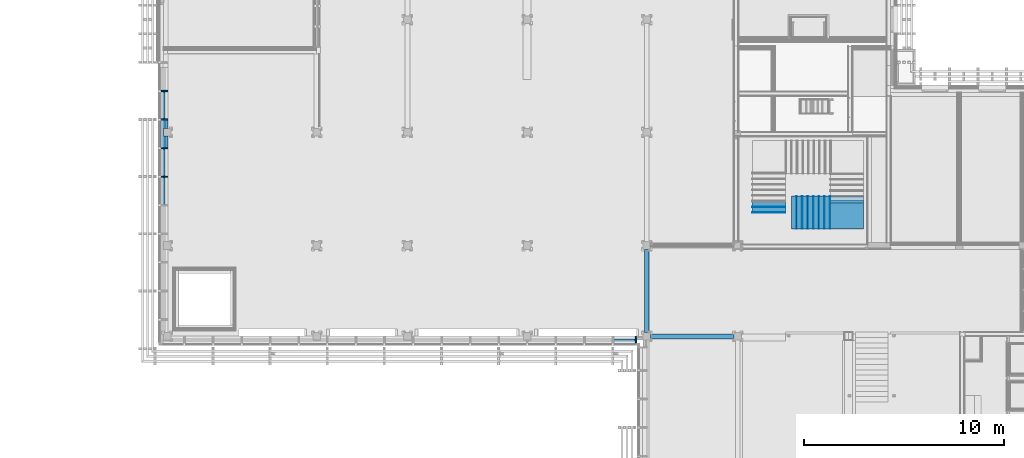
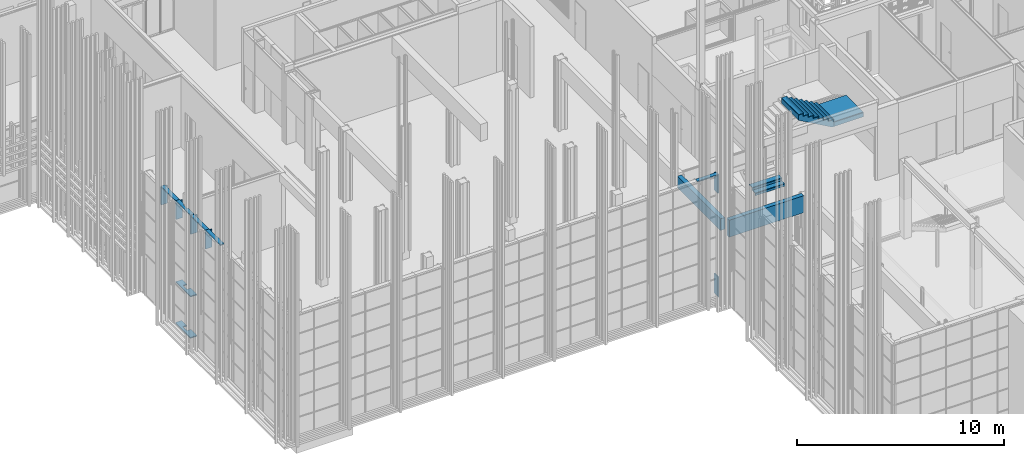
# One storey, part 74 of 260: 34 members, 2 beams, 2 elements without a shape of their own.
"""IFC2X3 building model written with IfcOpenShell, lengths in millimetres."""

from ifc_helpers import new_model, entity, si_unit, converted_unit, derived_unit, money_unit, direction, frame, origin_with_axes, place, context, subcontext, project, spatial, faceted_brep, material, type_object, element, aggregate, save


model = new_model("IFC2X3")

# Units and contexts
model_context = context("Model", 3, precision=0.01, world=origin_with_axes(), true_north=direction((0.0, 1.0)))
body_context = subcontext(model_context, "Body", "Model", "MODEL_VIEW")
ifc_project = project(units=[si_unit("LENGTHUNIT", "METRE", prefix="MILLI"), si_unit("AREAUNIT", "SQUARE_METRE"), si_unit("VOLUMEUNIT", "CUBIC_METRE"), converted_unit("PLANEANGLEUNIT", "DEGREE", entity("IfcPlaneAngleMeasure", 0.0174532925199), si_unit("PLANEANGLEUNIT", "RADIAN"), dimensions=[0, 0, 0, 0, 0, 0, 0]), money_unit("EUR"), converted_unit("TIMEUNIT", "Year", entity("IfcTimeMeasure", 31556926.0), si_unit("TIMEUNIT", "SECOND"), dimensions=[0, 0, 1, 0, 0, 0, 0]), si_unit("MASSUNIT", "GRAM", prefix="KILO"), si_unit("THERMODYNAMICTEMPERATUREUNIT", "DEGREE_CELSIUS"), si_unit("LUMINOUSINTENSITYUNIT", "LUMEN"), si_unit("ENERGYUNIT", "JOULE", prefix="MEGA"), derived_unit("THERMALCONDUCTANCEUNIT", [(si_unit("POWERUNIT", "WATT"), 1), (si_unit("LENGTHUNIT", "METRE"), -1), (si_unit("THERMODYNAMICTEMPERATUREUNIT", "KELVIN"), -1)]), derived_unit("SPECIFICHEATCAPACITYUNIT", [(si_unit("ENERGYUNIT", "JOULE"), 1), (si_unit("MASSUNIT", "GRAM", prefix="KILO"), -1), (si_unit("THERMODYNAMICTEMPERATUREUNIT", "KELVIN"), -1)]), derived_unit("MASSDENSITYUNIT", [(si_unit("MASSUNIT", "GRAM", prefix="KILO"), 1), (si_unit("VOLUMEUNIT", "CUBIC_METRE"), -1)])], contexts=[model_context])

# Site, building, storey
site_placement = place(None, origin_with_axes())
site = spatial("IfcSite", under=ifc_project, at=site_placement, Name="Kolde pst 67a", CompositionType="ELEMENT")
building_placement = place(site_placement, origin_with_axes())
building = spatial("IfcBuilding", under=site, at=building_placement, Name="Riigigümnaasium", CompositionType="ELEMENT")
storey_placement = place(building_placement, origin_with_axes())
storey = spatial("IfcBuildingStorey", under=building, at=storey_placement, Name="1. korrus", CompositionType="ELEMENT", Elevation=0.0)

# Stair, members
stair_placement = place(storey_placement, frame((55074.9583238, 31162.4614213, 0.0), z_axis=(0.0, 0.0, 1.0), x_axis=(1.0, 0.0, 0.0)))
stair = element("IfcStair", 1, at=stair_placement, inside=storey, Name="TREPP", ShapeType="NOTDEFINED")
ifc_material_1 = material(Name="_KANDETARIND - raudbetoon C25/30 vastavalt EK osale")
member_type_1 = type_object("IfcMemberType", Name="IfcMember", PredefinedType="USERDEFINED")
member_1_placement = place(stair_placement, origin_with_axes())
member_1 = element("IfcMember", 2, at=member_1_placement, type_object=member_type_1, material=ifc_material_1, Name="TM KONSTRUKTSIOON - 014", ObjectType="Stair Structure", context=body_context, shape_type="Brep", body=[
    faceted_brep([(2350.02571472, -95.0000018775, 3207.65517241), (2350.02571472, -95.0000018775, 3337.65517241), (4000.02571284, -95.0000018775, 3337.65517241), (4000.02571284, -95.0000018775, 3207.65517241), (2350.02571472, -255.000008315, 3337.65517241), (2350.02571472, -1555.0, 3207.65517241), (2350.02571472, -1555.0, 3457.65517241), (2350.02571472, -255.000008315, 3457.65517241), (4000.02571284, -255.000008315, 3337.65517241), (4000.02571284, -255.000008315, 3457.65517241), (4000.02571284, -1555.0, 3457.65517241), (4000.02571284, -1555.0, 3207.65517241)], [[[0, 1, 2, 3]], [[4, 1, 0, 5, 6, 7]], [[1, 4, 8, 2]], [[2, 8, 9, 10, 11, 3]], [[5, 0, 3, 11]], [[6, 5, 11, 10]], [[7, 6, 10, 9]], [[4, 7, 9, 8]]]),
])
member_2_placement = place(stair_placement, origin_with_axes())
member_2 = element("IfcMember", 3, at=member_2_placement, type_object=member_type_1, material=ifc_material_1, Name="TT KONSTRUKTSIOON - 018", ObjectType="Stair Structure", context=body_context, shape_type="Brep", body=[
    faceted_brep([(2350.02571284, -1555.0, 3207.65517241), (2350.02571284, 95.0, 3207.65517241), (2350.02571284, 95.0, 3457.65517241), (2350.02571284, -1555.0, 3457.65517241), (2252.13234043, 95.0, 3207.65517241), (2252.13234043, -1555.0, 3207.65517241), (576.692379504, 95.0, 4156.79603698), (483.359046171, 95.0, 4209.6696002), (390.025712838, 95.0, 4262.54316341), (390.025712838, 95.0, 4568.0), (638.025712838, 95.0, 4568.0), (638.025712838, 95.0, 4409.37931034), (918.025712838, 95.0, 4409.37931034), (918.025712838, 95.0, 4250.75862069), (1198.02571284, 95.0, 4250.75862069), (1198.02571284, 95.0, 4092.13793103), (1478.02571284, 95.0, 4092.13793103), (1478.02571284, 95.0, 3933.51724138), (1758.02571284, 95.0, 3933.51724138), (1758.02571284, 95.0, 3774.89655172), (2038.02571284, 95.0, 3774.89655172), (2038.02571284, 95.0, 3616.27586207), (2318.02571284, 95.0, 3616.27586207), (2318.02571284, 95.0, 3457.65517241), (2163.35904617, 95.0, 3257.94546227), (2070.02571284, 95.0, 3310.81902548), (1976.6923795, 95.0, 3363.6925887), (1883.35904617, 95.0, 3416.56615192), (1790.02571284, 95.0, 3469.43971514), (1696.6923795, 95.0, 3522.31327836), (1603.35904617, 95.0, 3575.18684158), (1510.02571284, 95.0, 3628.06040479), (1416.6923795, 95.0, 3680.93396801), (1323.35904617, 95.0, 3733.80753123), (1230.02571284, 95.0, 3786.68109445), (1136.6923795, 95.0, 3839.55465767), (1043.35904617, 95.0, 3892.42822089), (950.025712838, 95.0, 3945.3017841), (856.692379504, 95.0, 3998.17534732), (763.359046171, 95.0, 4051.04891054), (670.025712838, 95.0, 4103.92247376), (2318.02571284, -1555.0, 3457.65517241), (2318.02571284, -1555.0, 3616.27586207), (2038.02571284, -1555.0, 3616.27586207), (2038.02571284, -1555.0, 3774.89655172), (1758.02571284, -1555.0, 3774.89655172), (1758.02571284, -1555.0, 3933.51724138), (1478.02571284, -1555.0, 3933.51724138), (1478.02571284, -1555.0, 4092.13793103), (1198.02571284, -1555.0, 4092.13793103), (1198.02571284, -1555.0, 4250.75862069), (918.025712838, -1555.0, 4250.75862069), (918.025712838, -1555.0, 4409.37931034), (638.025712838, -1555.0, 4409.37931034), (638.025712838, -1555.0, 4568.0), (390.025712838, -1555.0, 4568.0), (390.025712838, -1555.0, 4262.54316341), (483.359046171, -1555.0, 4209.6696002), (576.692379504, -1555.0, 4156.79603698), (670.025712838, -1555.0, 4103.92247376), (763.359046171, -1555.0, 4051.04891054), (856.692379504, -1555.0, 3998.17534732), (950.025712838, -1555.0, 3945.3017841), (1043.35904617, -1555.0, 3892.42822089), (1136.6923795, -1555.0, 3839.55465767), (1230.02571284, -1555.0, 3786.68109445), (1323.35904617, -1555.0, 3733.80753123), (1416.6923795, -1555.0, 3680.93396801), (1510.02571284, -1555.0, 3628.06040479), (1603.35904617, -1555.0, 3575.18684158), (1696.6923795, -1555.0, 3522.31327836), (1790.02571284, -1555.0, 3469.43971514), (1883.35904617, -1555.0, 3416.56615192), (1976.6923795, -1555.0, 3363.6925887), (2070.02571284, -1555.0, 3310.81902548), (2163.35904617, -1555.0, 3257.94546227)], [[[0, 1, 2, 3]], [[4, 1, 0, 5]], [[6, 7, 8, 9, 10, 11, 12, 13, 14, 15, 16, 17, 18, 19, 20, 21, 22, 23, 2, 1, 4, 24, 25, 26, 27, 28, 29, 30, 31, 32, 33, 34, 35, 36, 37, 38, 39, 40]], [[23, 41, 3, 2]], [[5, 0, 3, 41, 42, 43, 44, 45, 46, 47, 48, 49, 50, 51, 52, 53, 54, 55, 56, 57, 58, 59, 60, 61, 62, 63, 64, 65, 66, 67, 68, 69, 70, 71, 72, 73, 74, 75]], [[75, 24, 4, 5]], [[57, 7, 6, 58]], [[56, 8, 7, 57]], [[9, 8, 56, 55]], [[9, 55, 54, 10]], [[54, 53, 11, 10]], [[53, 52, 12, 11]], [[52, 51, 13, 12]], [[51, 50, 14, 13]], [[50, 49, 15, 14]], [[49, 48, 16, 15]], [[48, 47, 17, 16]], [[47, 46, 18, 17]], [[46, 45, 19, 18]], [[45, 44, 20, 19]], [[44, 43, 21, 20]], [[43, 42, 22, 21]], [[42, 41, 23, 22]], [[74, 25, 24, 75]], [[73, 26, 25, 74]], [[72, 27, 26, 73]], [[71, 28, 27, 72]], [[70, 29, 28, 71]], [[69, 30, 29, 70]], [[68, 31, 30, 69]], [[67, 32, 31, 68]], [[66, 33, 32, 67]], [[65, 34, 33, 66]], [[64, 35, 34, 65]], [[63, 36, 35, 64]], [[62, 37, 36, 63]], [[61, 38, 37, 62]], [[60, 39, 38, 61]], [[59, 40, 39, 60]], [[58, 6, 40, 59]]]),
])
ifc_material_2 = material(Name="_VIIMISTLUSKIHT - viimistlus vastavalt SA osale")
member_type_2 = type_object("IfcMemberType", Name="IfcMember", PredefinedType="USERDEFINED")
member_3_placement = place(stair_placement, frame((-735.15763142, -742.230620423, 126.620689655), z_axis=(0.0, 0.0, 1.0), x_axis=(1.0, 0.0, 0.0)))
member_3 = element("IfcMember", 4, at=member_3_placement, type_object=member_type_2, material=ifc_material_2, Name="TV TÕUS - 110", ObjectType="Stair Riser", context=body_context, shape_type="Brep", body=[
    faceted_brep([(-822.964830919, 0.0, 0.0), (825.0, 0.0, 0.0), (825.0, 32.0, 0.0), (-822.964830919, 32.0, 0.0), (-822.964830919, 0.0, -126.620689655), (825.0, 0.0, -126.620689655), (825.0, 32.0, -126.620689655), (-822.964830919, 32.0, -126.620689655)], [[[0, 1, 2, 3]], [[4, 5, 1, 0]], [[2, 1, 5, 6]], [[3, 2, 6, 7]], [[4, 0, 3, 7]], [[7, 6, 5, 4]]]),
])
member_4_placement = place(stair_placement, frame((-735.15763142, -462.230620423, 285.24137931), z_axis=(0.0, 0.0, 1.0), x_axis=(1.0, 0.0, 0.0)))
member_4 = element("IfcMember", 5, at=member_4_placement, type_object=member_type_2, material=ifc_material_2, Name="TV TÕUS - 111", ObjectType="Stair Riser", context=body_context, shape_type="Brep", body=[
    faceted_brep([(825.0, 0.0, 0.0), (825.0, 32.0, 0.0), (-822.964830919, 32.0, 0.0), (-822.964830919, 0.0, 0.0), (825.0, 0.0, -126.620689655), (825.0, 32.0, -126.620689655), (-822.964830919, 32.0, -126.620689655), (-822.964830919, 0.0, -126.620689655)], [[[0, 1, 2, 3]], [[0, 4, 5, 1]], [[1, 5, 6, 2]], [[3, 2, 6, 7]], [[4, 0, 3, 7]], [[5, 4, 7, 6]]]),
])
member_5_placement = place(stair_placement, frame((2350.02571284, -730.0, 3616.27586207), z_axis=(0.0, 0.0, 1.0), x_axis=(0.0, 1.0, 0.0)))
member_5 = element("IfcMember", 6, at=member_5_placement, type_object=member_type_2, material=ifc_material_2, Name="TV TÕUS - 129", ObjectType="Stair Riser", context=body_context, shape_type="Brep", body=[
    faceted_brep([(825.0, 0.0, 0.0), (825.0, 32.0, 0.0), (-825.0, 32.0, 0.0), (-825.0, 0.0, 0.0), (825.0, 0.0, -126.620689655), (825.0, 32.0, -126.620689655), (-825.0, 32.0, -126.620689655), (-825.0, 0.0, -126.620689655)], [[[0, 1, 2, 3]], [[0, 4, 5, 1]], [[1, 5, 6, 2]], [[3, 2, 6, 7]], [[4, 0, 3, 7]], [[5, 4, 7, 6]]]),
])
member_6_placement = place(stair_placement, frame((2070.02571284, -730.0, 3774.89655172), z_axis=(0.0, 0.0, 1.0), x_axis=(0.0, 1.0, 0.0)))
member_6 = element("IfcMember", 7, at=member_6_placement, type_object=member_type_2, material=ifc_material_2, Name="TV TÕUS - 130", ObjectType="Stair Riser", context=body_context, shape_type="Brep", body=[
    faceted_brep([(825.0, 0.0, 0.0), (825.0, 32.0, 0.0), (-825.0, 32.0, 0.0), (-825.0, 0.0, 0.0), (825.0, 0.0, -126.620689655), (825.0, 32.0, -126.620689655), (-825.0, 32.0, -126.620689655), (-825.0, 0.0, -126.620689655)], [[[0, 1, 2, 3]], [[0, 4, 5, 1]], [[1, 5, 6, 2]], [[3, 2, 6, 7]], [[4, 0, 3, 7]], [[5, 4, 7, 6]]]),
])
member_7_placement = place(stair_placement, frame((1790.02571284, -730.0, 3933.51724138), z_axis=(0.0, 0.0, 1.0), x_axis=(0.0, 1.0, 0.0)))
member_7 = element("IfcMember", 8, at=member_7_placement, type_object=member_type_2, material=ifc_material_2, Name="TV TÕUS - 131", ObjectType="Stair Riser", context=body_context, shape_type="Brep", body=[
    faceted_brep([(825.0, 0.0, 0.0), (825.0, 32.0, 0.0), (-825.0, 32.0, 0.0), (-825.0, 0.0, 0.0), (825.0, 0.0, -126.620689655), (825.0, 32.0, -126.620689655), (-825.0, 32.0, -126.620689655), (-825.0, 0.0, -126.620689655)], [[[0, 1, 2, 3]], [[0, 4, 5, 1]], [[1, 5, 6, 2]], [[3, 2, 6, 7]], [[4, 0, 3, 7]], [[5, 4, 7, 6]]]),
])
member_8_placement = place(stair_placement, frame((1510.02571284, -730.0, 4092.13793103), z_axis=(0.0, 0.0, 1.0), x_axis=(0.0, 1.0, 0.0)))
member_8 = element("IfcMember", 9, at=member_8_placement, type_object=member_type_2, material=ifc_material_2, Name="TV TÕUS - 132", ObjectType="Stair Riser", context=body_context, shape_type="Brep", body=[
    faceted_brep([(825.0, 0.0, 0.0), (825.0, 32.0, 0.0), (-825.0, 32.0, 0.0), (-825.0, 0.0, 0.0), (825.0, 0.0, -126.620689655), (825.0, 32.0, -126.620689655), (-825.0, 32.0, -126.620689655), (-825.0, 0.0, -126.620689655)], [[[0, 1, 2, 3]], [[0, 4, 5, 1]], [[1, 5, 6, 2]], [[3, 2, 6, 7]], [[4, 0, 3, 7]], [[5, 4, 7, 6]]]),
])
member_9_placement = place(stair_placement, frame((1230.02571284, -730.0, 4250.75862069), z_axis=(0.0, 0.0, 1.0), x_axis=(0.0, 1.0, 0.0)))
member_9 = element("IfcMember", 10, at=member_9_placement, type_object=member_type_2, material=ifc_material_2, Name="TV TÕUS - 133", ObjectType="Stair Riser", context=body_context, shape_type="Brep", body=[
    faceted_brep([(825.0, 0.0, 0.0), (825.0, 32.0, 0.0), (-825.0, 32.0, 0.0), (-825.0, 0.0, 0.0), (825.0, 0.0, -126.620689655), (825.0, 32.0, -126.620689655), (-825.0, 32.0, -126.620689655), (-825.0, 0.0, -126.620689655)], [[[0, 1, 2, 3]], [[0, 4, 5, 1]], [[1, 5, 6, 2]], [[3, 2, 6, 7]], [[4, 0, 3, 7]], [[5, 4, 7, 6]]]),
])
member_10_placement = place(stair_placement, frame((950.025712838, -730.0, 4409.37931034), z_axis=(0.0, 0.0, 1.0), x_axis=(0.0, 1.0, 0.0)))
member_10 = element("IfcMember", 11, at=member_10_placement, type_object=member_type_2, material=ifc_material_2, Name="TV TÕUS - 134", ObjectType="Stair Riser", context=body_context, shape_type="Brep", body=[
    faceted_brep([(825.0, 0.0, 0.0), (825.0, 32.0, 0.0), (-825.0, 32.0, 0.0), (-825.0, 0.0, 0.0), (825.0, 0.0, -126.620689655), (825.0, 32.0, -126.620689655), (-825.0, 32.0, -126.620689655), (-825.0, 0.0, -126.620689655)], [[[0, 1, 2, 3]], [[0, 4, 5, 1]], [[1, 5, 6, 2]], [[3, 2, 6, 7]], [[4, 0, 3, 7]], [[5, 4, 7, 6]]]),
])
member_11_placement = place(stair_placement, frame((670.025712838, -730.0, 4568.0), z_axis=(0.0, 0.0, 1.0), x_axis=(0.0, 1.0, 0.0)))
member_11 = element("IfcMember", 12, at=member_11_placement, type_object=member_type_2, material=ifc_material_2, Name="TV TÕUS - 135", ObjectType="Stair Riser", context=body_context, shape_type="Brep", body=[
    faceted_brep([(825.0, 0.0, 0.0), (825.0, 32.0, 0.0), (-825.0, 32.0, 0.0), (-825.0, 0.0, 0.0), (825.0, 0.0, -126.620689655), (825.0, 32.0, -126.620689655), (-825.0, 32.0, -126.620689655), (-825.0, 0.0, -126.620689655)], [[[0, 1, 2, 3]], [[0, 4, 5, 1]], [[1, 5, 6, 2]], [[3, 2, 6, 7]], [[4, 0, 3, 7]], [[5, 4, 7, 6]]]),
])
member_type_3 = type_object("IfcMemberType", Name="IfcMember", PredefinedType="USERDEFINED")
member_12_placement = place(stair_placement, frame((-735.15763142, -742.230620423, 158.620689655), z_axis=(0.0, 0.0, 1.0), x_axis=(1.0, 0.0, 0.0)))
member_12 = element("IfcMember", 13, at=member_12_placement, type_object=member_type_3, material=ifc_material_2, Name="TV ASTE - 110", ObjectType="Stair Tread", context=body_context, shape_type="Brep", body=[
    faceted_brep([(-822.964830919, 0.0, -32.0), (825.0, 0.0, -32.0), (825.0, 0.0, 0.0), (-822.964830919, 0.0, 0.0), (-822.964830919, 311.999994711, -32.0), (825.0, 311.999994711, -32.0), (825.0, 311.999994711, 0.0), (-822.964830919, 311.999994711, 0.0)], [[[0, 1, 2, 3]], [[0, 4, 5, 1]], [[1, 5, 6, 2]], [[3, 2, 6, 7]], [[4, 0, 3, 7]], [[5, 4, 7, 6]]]),
])
member_13_placement = place(stair_placement, frame((-735.15763142, -462.230620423, 317.24137931), z_axis=(0.0, 0.0, 1.0), x_axis=(1.0, 0.0, 0.0)))
member_13 = element("IfcMember", 14, at=member_13_placement, type_object=member_type_3, material=ifc_material_2, Name="TV ASTE - 111", ObjectType="Stair Tread", context=body_context, shape_type="Brep", body=[
    faceted_brep([(-822.964830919, 0.0, -32.0), (825.0, 0.0, -32.0), (825.0, 0.0, 0.0), (-822.964830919, 0.0, 0.0), (-822.964830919, 311.999994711, -32.0), (825.0, 311.999994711, -32.0), (825.0, 311.999994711, 0.0), (-822.964830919, 311.999994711, 0.0)], [[[0, 1, 2, 3]], [[0, 4, 5, 1]], [[1, 5, 6, 2]], [[3, 2, 6, 7]], [[4, 0, 3, 7]], [[5, 4, 7, 6]]]),
])
member_14_placement = place(stair_placement, frame((3175.02571284, 95.0, 3489.65517241), z_axis=(0.0, 0.0, 1.0), x_axis=(-1.0, 0.0, 0.0)))
member_14 = element("IfcMember", 15, at=member_14_placement, type_object=member_type_3, material=ifc_material_2, Name="SL TREAD - 014", ObjectType="Stair Tread", context=body_context, shape_type="Brep", body=[
    faceted_brep([(857.0, 1650.0, -32.0), (-825.0, 1650.0, -32.0), (-825.0, 1650.0, 0.0), (857.0, 1650.0, 0.0), (857.0, 1.8775452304e-06, -32.0), (824.999998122, 1.8775452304e-06, -32.0), (-825.0, 1.8775452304e-06, -32.0), (-825.0, 1.8775452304e-06, 0.0), (824.999998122, 1.8775452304e-06, 0.0), (857.0, 1.8775452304e-06, 0.0)], [[[0, 1, 2, 3]], [[0, 4, 5, 6, 1]], [[1, 6, 7, 2]], [[3, 2, 7, 8, 9]], [[4, 0, 3, 9]], [[5, 4, 9, 8]], [[6, 5, 8, 7]]]),
])
member_15_placement = place(stair_placement, frame((2350.02571284, -730.0, 3648.27586207), z_axis=(0.0, 0.0, 1.0), x_axis=(0.0, 1.0, 0.0)))
member_15 = element("IfcMember", 16, at=member_15_placement, type_object=member_type_3, material=ifc_material_2, Name="TV ASTE - 129", ObjectType="Stair Tread", context=body_context, shape_type="Brep", body=[
    faceted_brep([(-825.0, 312.0, -32.0), (-825.0, 0.0, -32.0), (-825.0, 0.0, 0.0), (-825.0, 312.0, 0.0), (825.0, 312.0, -32.0), (825.0, 0.0, -32.0), (825.0, 0.0, 0.0), (825.0, 312.0, 0.0)], [[[0, 1, 2, 3]], [[0, 4, 5, 1]], [[1, 5, 6, 2]], [[3, 2, 6, 7]], [[4, 0, 3, 7]], [[5, 4, 7, 6]]]),
])
member_16_placement = place(stair_placement, frame((2070.02571284, -730.0, 3806.89655172), z_axis=(0.0, 0.0, 1.0), x_axis=(0.0, 1.0, 0.0)))
member_16 = element("IfcMember", 17, at=member_16_placement, type_object=member_type_3, material=ifc_material_2, Name="TV ASTE - 130", ObjectType="Stair Tread", context=body_context, shape_type="Brep", body=[
    faceted_brep([(-825.0, 0.0, -32.0), (825.0, 0.0, -32.0), (825.0, 0.0, 0.0), (-825.0, 0.0, 0.0), (-825.0, 312.0, -32.0), (825.0, 312.0, -32.0), (825.0, 312.0, 0.0), (-825.0, 312.0, 0.0)], [[[0, 1, 2, 3]], [[0, 4, 5, 1]], [[1, 5, 6, 2]], [[3, 2, 6, 7]], [[4, 0, 3, 7]], [[5, 4, 7, 6]]]),
])
member_17_placement = place(stair_placement, frame((1790.02571284, -730.0, 3965.51724138), z_axis=(0.0, 0.0, 1.0), x_axis=(0.0, 1.0, 0.0)))
member_17 = element("IfcMember", 18, at=member_17_placement, type_object=member_type_3, material=ifc_material_2, Name="TV ASTE - 131", ObjectType="Stair Tread", context=body_context, shape_type="Brep", body=[
    faceted_brep([(-825.0, 0.0, -32.0), (825.0, 0.0, -32.0), (825.0, 0.0, 0.0), (-825.0, 0.0, 0.0), (-825.0, 312.0, -32.0), (825.0, 312.0, -32.0), (825.0, 312.0, 0.0), (-825.0, 312.0, 0.0)], [[[0, 1, 2, 3]], [[0, 4, 5, 1]], [[1, 5, 6, 2]], [[3, 2, 6, 7]], [[4, 0, 3, 7]], [[5, 4, 7, 6]]]),
])
member_18_placement = place(stair_placement, frame((1510.02571284, -730.0, 4124.13793103), z_axis=(0.0, 0.0, 1.0), x_axis=(0.0, 1.0, 0.0)))
member_18 = element("IfcMember", 19, at=member_18_placement, type_object=member_type_3, material=ifc_material_2, Name="TV ASTE - 132", ObjectType="Stair Tread", context=body_context, shape_type="Brep", body=[
    faceted_brep([(-825.0, 0.0, -32.0), (825.0, 0.0, -32.0), (825.0, 0.0, 0.0), (-825.0, 0.0, 0.0), (-825.0, 312.0, -32.0), (825.0, 312.0, -32.0), (825.0, 312.0, 0.0), (-825.0, 312.0, 0.0)], [[[0, 1, 2, 3]], [[0, 4, 5, 1]], [[1, 5, 6, 2]], [[3, 2, 6, 7]], [[4, 0, 3, 7]], [[5, 4, 7, 6]]]),
])
member_19_placement = place(stair_placement, frame((1230.02571284, -730.0, 4282.75862069), z_axis=(0.0, 0.0, 1.0), x_axis=(0.0, 1.0, 0.0)))
member_19 = element("IfcMember", 20, at=member_19_placement, type_object=member_type_3, material=ifc_material_2, Name="TV ASTE - 133", ObjectType="Stair Tread", context=body_context, shape_type="Brep", body=[
    faceted_brep([(-825.0, 0.0, -32.0), (825.0, 0.0, -32.0), (825.0, 0.0, 0.0), (-825.0, 0.0, 0.0), (-825.0, 312.0, -32.0), (825.0, 312.0, -32.0), (825.0, 312.0, 0.0), (-825.0, 312.0, 0.0)], [[[0, 1, 2, 3]], [[0, 4, 5, 1]], [[1, 5, 6, 2]], [[3, 2, 6, 7]], [[4, 0, 3, 7]], [[5, 4, 7, 6]]]),
])
member_20_placement = place(stair_placement, frame((950.025712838, -730.0, 4441.37931034), z_axis=(0.0, 0.0, 1.0), x_axis=(0.0, 1.0, 0.0)))
member_20 = element("IfcMember", 21, at=member_20_placement, type_object=member_type_3, material=ifc_material_2, Name="TV ASTE - 134", ObjectType="Stair Tread", context=body_context, shape_type="Brep", body=[
    faceted_brep([(-825.0, 0.0, -32.0), (825.0, 0.0, -32.0), (825.0, 0.0, 0.0), (-825.0, 0.0, 0.0), (-825.0, 312.0, -32.0), (825.0, 312.0, -32.0), (825.0, 312.0, 0.0), (-825.0, 312.0, 0.0)], [[[0, 1, 2, 3]], [[0, 4, 5, 1]], [[1, 5, 6, 2]], [[3, 2, 6, 7]], [[4, 0, 3, 7]], [[5, 4, 7, 6]]]),
])
member_21_placement = place(stair_placement, frame((670.025712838, -730.0, 4600.0), z_axis=(0.0, 0.0, 1.0), x_axis=(0.0, 1.0, 0.0)))
member_21 = element("IfcMember", 22, at=member_21_placement, type_object=member_type_3, material=ifc_material_2, Name="TV ASTE - 135", ObjectType="Stair Tread", context=body_context, shape_type="Brep", body=[
    faceted_brep([(-825.0, 0.0, -32.0), (825.0, 0.0, -32.0), (825.0, 0.0, 0.0), (-825.0, 0.0, 0.0), (-825.0, 280.0, -32.0), (825.0, 280.0, -32.0), (825.0, 280.0, 0.0), (-825.0, 280.0, 0.0)], [[[0, 1, 2, 3]], [[0, 4, 5, 1]], [[1, 5, 6, 2]], [[3, 2, 6, 7]], [[4, 0, 3, 7]], [[5, 4, 7, 6]]]),
])
aggregate(stair, [member_1, member_2, member_3, member_4, member_5, member_6, member_7, member_8, member_9, member_10, member_11, member_12, member_13, member_14, member_15, member_16, member_17, member_18, member_19, member_20, member_21])

# Curtain wall, members
curtain_wall_type = type_object("IfcCurtainWallType", Name="Curtain Wall Type", PredefinedType="NOTDEFINED")
curtain_wall_placement = place(storey_placement, frame((23890.0026791, 27220.1832522, -0.000253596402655), z_axis=(0.0, 0.0, 1.0), x_axis=(1.0, 0.0, 0.0)))
curtain_wall = element("IfcCurtainWall", 23, at=curtain_wall_placement, inside=storey, type_object=curtain_wall_type, Name="Klaasfassaadi puitkarkass")
ifc_material_3 = material(Name="_KANDETARIND - liimpuit vastavalt EK osale")
member_type_4 = type_object("IfcMemberType", Name="Boundary Frame 60 x 360", PredefinedType="MEMBER")
member_22_placement = place(curtain_wall_placement, frame((3.29852660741e-05, 6435.0, 0.0), z_axis=(5.12591492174e-09, 1.0, 0.0), x_axis=(0.0, 0.0, 1.0)))
member_22 = element("IfcMember", 24, at=member_22_placement, type_object=member_type_4, material=ifc_material_3, Name="RF RAAM SERV-716", ObjectType="MEMBER", context=body_context, shape_type="Brep", body=[
    faceted_brep([(60.0, 150.000019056, 594.816721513), (60.0, 150.000017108, 974.816721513), (60.0, 359.999995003, 974.81672259), (60.0, 359.999992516, 1460.00000185), (60.0, -7.48383754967e-06, 1460.0), (60.0, 0.0, 0.0), (60.0, 360.0, 1.84532922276e-06), (60.0, 359.999996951, 594.81672259), (0.000253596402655, 150.000019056, 594.816721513), (0.000253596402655, 150.000017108, 974.816721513), (0.000253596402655, 359.999995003, 974.81672259), (0.0, 359.999992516, 1460.00000185), (0.0, -7.48383754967e-06, 1460.0), (0.0, 0.0, 0.0), (0.0, 360.0, 1.84532922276e-06), (0.000253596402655, 359.999996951, 594.81672259)], [[[0, 1, 2, 3, 4, 5, 6, 7]], [[1, 0, 8, 9]], [[10, 2, 1, 9]], [[2, 10, 11, 3]], [[4, 3, 11, 12]], [[13, 5, 4, 12]], [[14, 6, 5, 13]], [[15, 7, 6, 14]], [[0, 7, 15, 8]], [[8, 15, 14, 13, 12, 11, 10, 9]]]),
])
member_23_placement = place(curtain_wall_placement, frame((3.29852660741e-05, 6435.0, 2460.0002536), z_axis=(5.12591492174e-09, 1.0, 0.0), x_axis=(0.0, 0.0, 1.0)))
member_23 = element("IfcMember", 25, at=member_23_placement, type_object=member_type_4, material=ifc_material_3, Name="RF RAAM HOR-648", ObjectType="MEMBER", context=body_context, shape_type="Brep", body=[
    faceted_brep([(30.0, 150.000019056, 594.816721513), (30.0, 150.000017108, 974.816721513), (30.0, 359.999995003, 974.81672259), (30.0, 359.99999267, 1430.00000185), (30.0, -7.33005833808e-06, 1430.0), (30.0, 0.0, 0.0), (30.0, 360.0, 1.84532922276e-06), (30.0, 359.999996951, 594.81672259), (-30.0, 150.000019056, 594.816721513), (-30.0, 150.000017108, 974.816721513), (-30.0, 359.999995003, 974.81672259), (-30.0, 359.99999267, 1430.00000185), (-30.0, -7.33005833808e-06, 1430.0), (-30.0, 0.0, 0.0), (-30.0, 360.0, 1.84532922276e-06), (-30.0, 359.999996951, 594.81672259)], [[[0, 1, 2, 3, 4, 5, 6, 7]], [[1, 0, 8, 9]], [[10, 2, 1, 9]], [[2, 10, 11, 3]], [[4, 3, 11, 12]], [[13, 5, 4, 12]], [[14, 6, 5, 13]], [[15, 7, 6, 14]], [[0, 7, 15, 8]], [[8, 15, 14, 13, 12, 11, 10, 9]]]),
])
member_24_placement = place(curtain_wall_placement, frame((2.5655207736e-05, 5005.0, 7260.00000132), z_axis=(-5.12591492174e-09, -1.0, 0.0), x_axis=(0.0, 0.0, -1.0)))
member_24 = element("IfcMember", 26, at=member_24_placement, type_object=member_type_4, material=ifc_material_3, Name="RF RAAM SERV-731", ObjectType="MEMBER", context=body_context, shape_type="Brep", body=[
    faceted_brep([(0.0, 220.000036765, 1429.99999887), (0.0, 220.000029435, -1.12770237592e-06), (0.0, 0.0, 0.0), (0.0, 7.33005833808e-06, 1430.0), (59.9997477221, 220.000029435, -1.12770237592e-06), (59.9997477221, 220.000036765, 1429.99999887), (60.0, 0.0, 0.0), (60.0, 7.33005833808e-06, 1430.0)], [[[0, 1, 2, 3]], [[4, 1, 0, 5]], [[1, 4, 6, 2]], [[2, 6, 7, 3]], [[5, 0, 3, 7]], [[4, 5, 7, 6]]]),
])
member_25_placement = place(curtain_wall_placement, frame((3.29852660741e-05, 6435.0, 7260.00000132), z_axis=(-5.12591492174e-09, -1.0, 0.0), x_axis=(0.0, 0.0, -1.0)))
member_25 = element("IfcMember", 27, at=member_25_placement, type_object=member_type_4, material=ifc_material_3, Name="RF RAAM SERV-730", ObjectType="MEMBER", context=body_context, shape_type="Brep", body=[
    faceted_brep([(0.0, 220.000029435, 1429.99999887), (0.0, 220.000022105, -1.12770237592e-06), (0.0, 0.0, 0.0), (0.0, 7.33005833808e-06, 1430.0), (59.9997477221, 220.000022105, -1.12770237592e-06), (59.9997477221, 220.000029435, 1429.99999887), (60.0, 0.0, 0.0), (60.0, 7.33005833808e-06, 1430.0)], [[[0, 1, 2, 3]], [[4, 1, 0, 5]], [[1, 4, 6, 2]], [[2, 6, 7, 3]], [[5, 0, 3, 7]], [[4, 5, 7, 6]]]),
])
member_26_placement = place(curtain_wall_placement, frame((4.03153244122e-05, 7865.0, 7260.00000132), z_axis=(-5.12591492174e-09, -1.0, 0.0), x_axis=(0.0, 0.0, -1.0)))
member_26 = element("IfcMember", 28, at=member_26_placement, type_object=member_type_4, material=ifc_material_3, Name="RF RAAM SERV-729", ObjectType="MEMBER", context=body_context, shape_type="Brep", body=[
    faceted_brep([(0.0, 220.000017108, 455.183277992), (0.0, 220.000015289, -1.12770237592e-06), (0.0, 0.0, 0.0), (0.0, 7.33005833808e-06, 1430.0), (0.0, 220.000022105, 1429.99999887), (0.0, 220.000019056, 835.183278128), (0.0, 150.000019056, 835.183278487), (0.0, 150.000017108, 455.183278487), (59.9997477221, 220.000015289, -1.12770237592e-06), (59.9997477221, 220.000017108, 455.183277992), (60.0, 0.0, 0.0), (60.0, 7.33005833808e-06, 1430.0), (59.9997477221, 220.000022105, 1429.99999887), (59.9997477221, 220.000019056, 835.183278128), (60.0, 150.000019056, 835.183278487), (60.0, 150.000017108, 455.183278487)], [[[0, 1, 2, 3, 4, 5, 6, 7]], [[8, 1, 0, 9]], [[1, 8, 10, 2]], [[11, 3, 2, 10]], [[11, 12, 4, 3]], [[12, 13, 5, 4]], [[6, 5, 13, 14]], [[14, 15, 7, 6]], [[9, 0, 7, 15]], [[8, 9, 15, 14, 13, 12, 11, 10]]]),
])
member_27_placement = place(curtain_wall_placement, frame((4.7645386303e-05, 9295.0, 7260.00000132), z_axis=(-5.12591740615e-09, -1.0, 0.0), x_axis=(0.0, 0.0, -1.0)))
member_27 = element("IfcMember", 29, at=member_27_placement, type_object=member_type_4, material=ifc_material_3, Name="RF RAAM SERV-728", ObjectType="MEMBER", context=body_context, shape_type="Brep", body=[
    faceted_brep([(0.0, 220.000015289, 1429.99999887), (0.0, 220.000009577, -1.12770237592e-06), (0.0, 0.0, 0.0), (0.0, 7.3300618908e-06, 1430.0), (59.9997477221, 220.000009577, -1.12770237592e-06), (59.9997477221, 220.000015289, 1429.99999887), (60.0, 0.0, 0.0), (60.0, 7.3300618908e-06, 1430.0)], [[[0, 1, 2, 3]], [[4, 1, 0, 5]], [[1, 4, 6, 2]], [[2, 6, 7, 3]], [[5, 0, 3, 7]], [[4, 5, 7, 6]]]),
])
member_28_placement = place(curtain_wall_placement, frame((23829.4203303, -3330.16844509, 1230.0002536), z_axis=(3.37959507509e-09, 0.0, -1.0), x_axis=(-1.0, 0.0, -3.37959507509e-09)))
member_28 = element("IfcMember", 30, at=member_28_placement, type_object=member_type_4, material=ifc_material_3, Name="RF RAAM SERV-707", ObjectType="MEMBER", context=body_context, shape_type="Brep", body=[
    faceted_brep([(59.9999999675, 360.000000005, -2.02776018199e-07), (60.0000039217, 360.000000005, 1170.00012846), (60.0000039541, 5.41433564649e-09, 1170.00012846), (60.0, 5.41433564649e-09, -2.02776018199e-07), (-3.24718030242e-08, 360.0, 0.0), (4.12443057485e-06, 360.0, 1230.00012887), (4.15690237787e-06, 0.0, 1230.00012887), (0.0, 0.0, 0.0)], [[[0, 1, 2, 3]], [[4, 5, 1, 0]], [[1, 5, 6, 2]], [[3, 2, 6, 7]], [[0, 3, 7, 4]], [[7, 6, 5, 4]]]),
])
member_29_placement = place(curtain_wall_placement, frame((23829.4203099, -3330.16844509, 7259.9998304), z_axis=(3.3795985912e-09, 0.0, -1.0), x_axis=(-1.0, 0.0, -3.3795985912e-09)))
member_29 = element("IfcMember", 31, at=member_29_placement, type_object=member_type_4, material=ifc_material_3, Name="RF RAAM SERV-702", ObjectType="MEMBER", context=body_context, shape_type="Brep", body=[
    faceted_brep([(60.0000001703, 360.000000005, 59.9995766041), (1.70302882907e-07, 360.0, 59.9995768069), (3.71888120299e-06, 360.0, 1109.99957681), (60.0000037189, 360.000000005, 1109.9995766), (1.82929227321e-07, 219.997375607, 59.9995768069), (60.0000001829, 220.000304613, 59.9995766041), (-1.98454586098e-08, 219.997375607, 0.0), (0.0, 0.0, 0.0), (3.75135300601e-06, 0.0, 1109.99957681), (60.0000037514, 5.41433564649e-09, 1109.9995766), (60.0000002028, 5.41433564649e-09, 59.9999990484)], [[[0, 1, 2, 3]], [[4, 1, 0, 5]], [[4, 6, 7, 8, 2, 1]], [[9, 3, 2, 8]], [[5, 0, 3, 9, 10]], [[5, 6, 4]], [[6, 5, 10, 7]], [[8, 7, 10, 9]]]),
])
member_30_placement = place(curtain_wall_placement, frame((22649.3770557, -3330.16844519, 7259.99984114), z_axis=(1.0, 0.0, -9.10009681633e-09), x_axis=(-9.10009681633e-09, 0.0, -1.0)))
member_30 = element("IfcMember", 32, at=member_30_placement, type_object=member_type_4, material=ifc_material_3, Name="RF RAAM SERV-701", ObjectType="MEMBER", context=body_context, shape_type="Brep", body=[
    faceted_brep([(59.9995773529, 220.000304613, 1120.0432555), (-1.07385078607e-05, 219.997375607, 1180.0432542), (-1.07385078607e-05, 0.0, 1180.0432542), (59.9999898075, 0.0, 1120.0432555), (0.0, 220.054981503, 0.0), (59.9995875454, 220.054981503, 5.4600235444e-07), (0.0, 0.0, 0.0), (60.0, 0.0, 5.4600235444e-07)], [[[0, 1, 2, 3]], [[4, 1, 0, 5]], [[1, 4, 6, 2]], [[6, 7, 3, 2]], [[5, 0, 3, 7]], [[4, 5, 7, 6]]]),
])
member_type_5 = type_object("IfcMemberType", Name="Mullion Frame 60 x 360", PredefinedType="MEMBER")
member_31_placement = place(curtain_wall_placement, frame((2.5655207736e-05, 5005.0, 6150.0002536), z_axis=(0.0, 0.0, 1.0), x_axis=(-5.12591492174e-09, -1.0, 0.0)))
member_31 = element("IfcMember", 33, at=member_31_placement, type_object=member_type_5, material=ifc_material_3, Name="RF RAAM VERT-257", ObjectType="MEMBER", context=body_context, shape_type="Brep", body=[
    faceted_brep([(30.0, 0.0, 0.0), (30.0, 360.0, 0.0), (30.0, 360.0, 1049.99958427), (30.0, 0.0, 1049.99958755), (-30.0, 360.0, 0.0), (-30.0, 0.0, 0.0), (-30.0, 360.0, 1049.99958427), (-30.0, 0.0, 1049.99958755)], [[[0, 1, 2, 3]], [[4, 1, 0, 5]], [[1, 4, 6, 2]], [[3, 2, 6, 7]], [[5, 0, 3, 7]], [[4, 5, 7, 6]]]),
])
member_32_placement = place(curtain_wall_placement, frame((3.29852660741e-05, 6435.0, 6150.0002536), z_axis=(0.0, 0.0, 1.0), x_axis=(-5.12591492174e-09, -1.0, 0.0)))
member_32 = element("IfcMember", 34, at=member_32_placement, type_object=member_type_5, material=ifc_material_3, Name="RF RAAM VERT-258", ObjectType="MEMBER", context=body_context, shape_type="Brep", body=[
    faceted_brep([(30.0, 0.0, 0.0), (30.0, 360.0, 0.0), (30.0, 360.0, 1049.99958427), (30.0, 0.0, 1049.99958755), (-30.0, 360.0, 0.0), (-30.0, 0.0, 0.0), (-30.0, 360.0, 1049.99958427), (-30.0, 0.0, 1049.99958755)], [[[0, 1, 2, 3]], [[4, 1, 0, 5]], [[1, 4, 6, 2]], [[3, 2, 6, 7]], [[5, 0, 3, 7]], [[4, 5, 7, 6]]]),
])
member_33_placement = place(curtain_wall_placement, frame((4.03153244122e-05, 7865.0, 6150.0002536), z_axis=(0.0, 0.0, 1.0), x_axis=(-5.12591616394e-09, -1.0, 0.0)))
member_33 = element("IfcMember", 35, at=member_33_placement, type_object=member_type_5, material=ifc_material_3, Name="RF RAAM VERT-259", ObjectType="MEMBER", context=body_context, shape_type="Brep", body=[
    faceted_brep([(30.0, 0.0, 0.0), (30.0, 360.0, 0.0), (30.0, 360.0, 1049.99958427), (30.0, 0.0, 1049.99958755), (-30.0, 360.0, 0.0), (-30.0, 0.0, 0.0), (-30.0, 360.0, 1049.99958427), (-30.0, 0.0, 1049.99958755)], [[[0, 1, 2, 3]], [[4, 1, 0, 5]], [[1, 4, 6, 2]], [[3, 2, 6, 7]], [[5, 0, 3, 7]], [[4, 5, 7, 6]]]),
])
member_34_placement = place(curtain_wall_placement, frame((4.7645386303e-05, 9295.0, 6150.0002536), z_axis=(0.0, 0.0, 1.0), x_axis=(-5.12591616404e-09, -1.0, 0.0)))
member_34 = element("IfcMember", 36, at=member_34_placement, type_object=member_type_5, material=ifc_material_3, Name="RF RAAM VERT-260", ObjectType="MEMBER", context=body_context, shape_type="Brep", body=[
    faceted_brep([(30.0, 0.0, 0.0), (30.0, 360.0, 0.0), (30.0, 360.0, 1049.99958427), (30.0, 0.0, 1049.99958755), (-30.0, 360.0, 0.0), (-30.0, 0.0, 0.0), (-30.0, 360.0, 1049.99958427), (-30.0, 0.0, 1049.99958755)], [[[0, 1, 2, 3]], [[4, 1, 0, 5]], [[1, 4, 6, 2]], [[3, 2, 6, 7]], [[5, 0, 3, 7]], [[4, 5, 7, 6]]]),
])
aggregate(curtain_wall, [member_22, member_23, member_24, member_31, member_25, member_32, member_26, member_33, member_27, member_34, member_28, member_29, member_30])

# Beams
beam_type_1 = type_object("IfcBeamType", Name="_KANDETARIND - liimpuit vastavalt EK osale 240 x 1000", PredefinedType="BEAM")
beam_1_placement = place(storey_placement, frame((52589.9941222, 24229.9965348, 3670.0), z_axis=(0.0, 0.0, 1.0), x_axis=(0.0, 1.0, 0.0)))
element("IfcBeam", 37, at=beam_1_placement, inside=storey, type_object=beam_type_1, material=ifc_material_3, Name="Tala", ObjectType="BEAM", context=body_context, shape_type="Brep", body=[
    faceted_brep([(120.0, 0.0, 500.0), (120.0, 4170.00866153, 500.0), (-120.0, 4170.00866153, 500.0), (-120.0, 0.0, 500.0), (120.0, 0.0, -500.0), (120.0, 4170.00866153, -500.0), (-120.0, 4170.00866153, -500.0), (-120.0, 0.0, -500.0)], [[[0, 1, 2, 3]], [[4, 5, 1, 0]], [[2, 1, 5, 6]], [[3, 2, 6, 7]], [[4, 0, 3, 7]], [[7, 6, 5, 4]]]),
])
beam_type_2 = type_object("IfcBeamType", Name="_KANDETARIND - liimpuit vastavalt EK osale 240 x 680", PredefinedType="BEAM")
beam_2_placement = place(storey_placement, frame((48229.9854616, 28590.0045983, 3830.0), z_axis=(0.0, 0.0, 1.0), x_axis=(-1.0, 0.0, 0.0)))
element("IfcBeam", 38, at=beam_2_placement, inside=storey, type_object=beam_type_2, material=ifc_material_3, Name="Tala", ObjectType="BEAM", context=body_context, shape_type="Brep", body=[
    faceted_brep([(120.0, 0.0, 340.0), (120.0, 4170.003165, 340.0), (-120.0, 4170.003165, 340.0), (-120.0, 0.0, 340.0), (120.0, 0.0, -340.0), (120.0, 4170.003165, -340.0), (-120.0, 4170.003165, -340.0), (-120.0, 0.0, -340.0)], [[[0, 1, 2, 3]], [[4, 5, 1, 0]], [[2, 1, 5, 6]], [[3, 2, 6, 7]], [[4, 0, 3, 7]], [[7, 6, 5, 4]]]),
])

save(model, "model.ifc")
